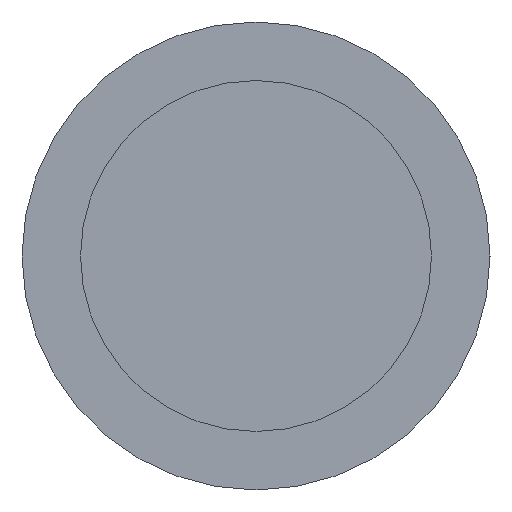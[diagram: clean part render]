
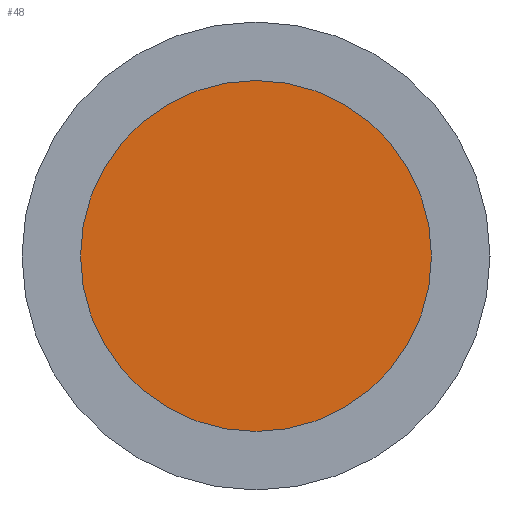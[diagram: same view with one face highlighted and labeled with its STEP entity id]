
A CAD part, left-side view. The second image highlights one B-rep face of the part: STEP entity #48.
In plain terms, the highlighted planar face has unit normal (-1, 0, 0).
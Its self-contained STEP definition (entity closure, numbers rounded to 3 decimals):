
#48=ADVANCED_FACE('',(#147),#149,.T.);
#147=FACE_BOUND('',#148,.T.);
#148=EDGE_LOOP('',(#242));
#149=PLANE('',#150);
#150=AXIS2_PLACEMENT_3D('',#151,#152,#153);
#151=CARTESIAN_POINT('',(-435.6,0.,0.));
#152=DIRECTION('',(-1.,0.,0.));
#153=DIRECTION('',(0.,0.,1.));
#242=ORIENTED_EDGE('',*,*,#262,.T.);
#262=EDGE_CURVE('',#272,#272,#273,.T.);
#272=VERTEX_POINT('',#292);
#273=CIRCLE('',#293,6.);
#292=CARTESIAN_POINT('',(-435.6,0.,6.));
#293=AXIS2_PLACEMENT_3D('',#294,#295,#296);
#294=CARTESIAN_POINT('',(-435.6,0.,0.));
#295=DIRECTION('',(-1.,0.,0.));
#296=DIRECTION('',(0.,0.,1.));
